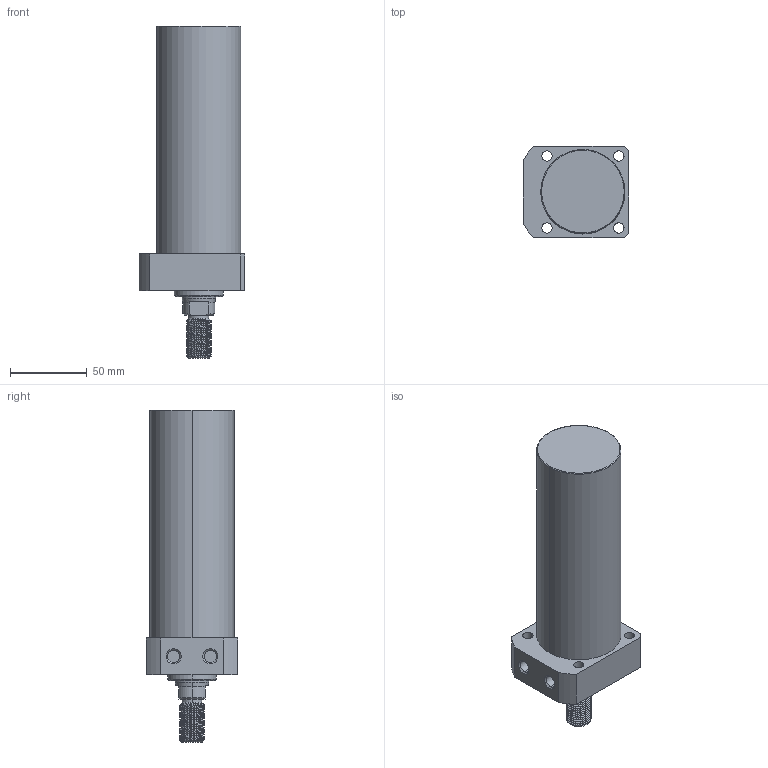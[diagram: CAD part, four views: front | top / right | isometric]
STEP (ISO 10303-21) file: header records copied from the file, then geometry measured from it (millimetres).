
FILE_DESCRIPTION (( 'STEP AP214' ), '1' );
FILE_NAME ('CLLR-055CT-120.STEP', '2020-01-10T00:55:30', ( 'Windows' ), ( 'Microsoft' ), 'SwSTEP 2.0', 'SolidWorks 2015', '' );
FILE_SCHEMA (( 'AUTOMOTIVE_DESIGN' ));
Length unit declared in the file: millimetre
Products named in the file (1): CLLR-055CT-120
Bounding box: 69 x 60 x 217 mm (x, y, z)
Volume: 458738.4 mm3; surface area: 45545.9 mm2
Topology: 1 solids, 1 shells, 101 faces, 259 edges, 168 vertices
Faces by surface type: cylinder 62, plane 20, cone 15, torus 2, bspline 2
Entity records: 5038 total; most frequent: CARTESIAN_POINT 2648, ORIENTED_EDGE 518, DIRECTION 458, EDGE_CURVE 259, AXIS2_PLACEMENT_3D 180, VERTEX_POINT 168, EDGE_LOOP 117, ADVANCED_FACE 101
